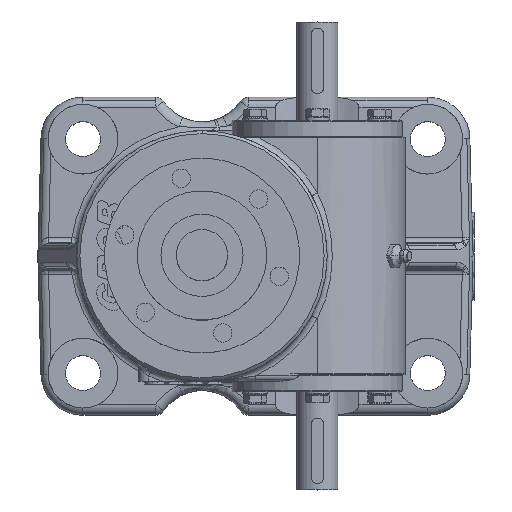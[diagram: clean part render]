
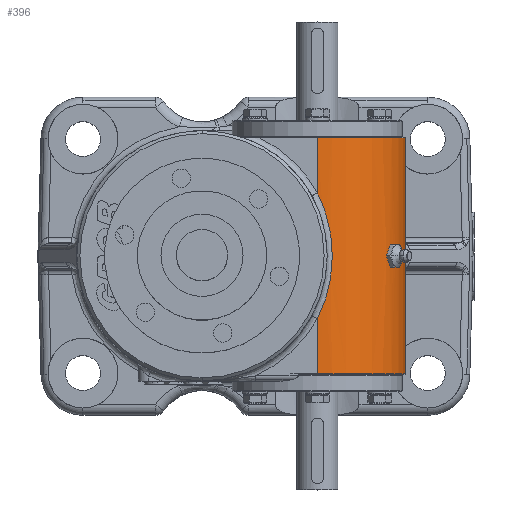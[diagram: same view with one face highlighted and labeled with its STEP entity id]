
A CAD part, top view. The second image highlights one B-rep face of the part: STEP entity #396.
In plain terms, the highlighted cylindrical face has radius 43 mm (diameter 86 mm), a partial arc.
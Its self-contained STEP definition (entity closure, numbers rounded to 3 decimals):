
#396=ADVANCED_FACE('',(#1498,#1499),#1500,.T.);
#1498=FACE_BOUND('',#3341,.T.);
#1499=FACE_OUTER_BOUND('',#3342,.T.);
#1500=CYLINDRICAL_SURFACE('',#3343,43.0);
#3341=EDGE_LOOP('',(#8148,#8149,#8150,#8151,#8152,#8153));
#3342=EDGE_LOOP('',(#8154,#8155,#8156,#8157,#8158,#8159,#8160,#8161,#8162,#8163,#8164,#8165));
#3343=AXIS2_PLACEMENT_3D('',#8166,#8167,#8168);
#8148=ORIENTED_EDGE('',*,*,#12544,.T.);
#8149=ORIENTED_EDGE('',*,*,#12540,.T.);
#8150=ORIENTED_EDGE('',*,*,#12536,.T.);
#8151=ORIENTED_EDGE('',*,*,#12559,.T.);
#8152=ORIENTED_EDGE('',*,*,#12555,.T.);
#8153=ORIENTED_EDGE('',*,*,#12558,.T.);
#8154=ORIENTED_EDGE('',*,*,#12595,.F.);
#8155=ORIENTED_EDGE('',*,*,#12596,.T.);
#8156=ORIENTED_EDGE('',*,*,#12583,.T.);
#8157=ORIENTED_EDGE('',*,*,#12597,.T.);
#8158=ORIENTED_EDGE('',*,*,#12598,.F.);
#8159=ORIENTED_EDGE('',*,*,#12599,.F.);
#8160=ORIENTED_EDGE('',*,*,#11758,.F.);
#8161=ORIENTED_EDGE('',*,*,#12600,.F.);
#8162=ORIENTED_EDGE('',*,*,#12601,.F.);
#8163=ORIENTED_EDGE('',*,*,#12602,.T.);
#8164=ORIENTED_EDGE('',*,*,#12590,.T.);
#8165=ORIENTED_EDGE('',*,*,#12603,.T.);
#8166=CARTESIAN_POINT('',(56.184,0.,61.5));
#8167=DIRECTION('',(0.,-1.0,0.));
#8168=DIRECTION('',(0.,0.,1.0));
#11758=EDGE_CURVE('',#13900,#13902,#13903,.T.);
#12536=EDGE_CURVE('',#15248,#15249,#15250,.T.);
#12540=EDGE_CURVE('',#15255,#15248,#15256,.T.);
#12544=EDGE_CURVE('',#15262,#15255,#15263,.T.);
#12555=EDGE_CURVE('',#15276,#15277,#15278,.T.);
#12558=EDGE_CURVE('',#15277,#15262,#15281,.T.);
#12559=EDGE_CURVE('',#15249,#15276,#15282,.T.);
#12583=EDGE_CURVE('',#15314,#15311,#15315,.T.);
#12590=EDGE_CURVE('',#15325,#15323,#15326,.T.);
#12595=EDGE_CURVE('',#15333,#15334,#15335,.T.);
#12596=EDGE_CURVE('',#15333,#15314,#15336,.T.);
#12597=EDGE_CURVE('',#15311,#15337,#15338,.T.);
#12598=EDGE_CURVE('',#15339,#15337,#15340,.T.);
#12599=EDGE_CURVE('',#13902,#15339,#15341,.T.);
#12600=EDGE_CURVE('',#15342,#13900,#15343,.T.);
#12601=EDGE_CURVE('',#15344,#15342,#15345,.T.);
#12602=EDGE_CURVE('',#15344,#15325,#15346,.T.);
#12603=EDGE_CURVE('',#15323,#15334,#15347,.T.);
#13900=VERTEX_POINT('',#17307);
#13902=VERTEX_POINT('',#17309);
#13903=LINE('',#17310,#17311);
#15248=VERTEX_POINT('',#19846);
#15249=VERTEX_POINT('',#19847);
#15250=ELLIPSE('',#19848,86.0,43.0);
#15255=VERTEX_POINT('',#19864);
#15256=CIRCLE('',#19865,43.0);
#15262=VERTEX_POINT('',#19890);
#15263=ELLIPSE('',#19891,86.,43.0);
#15276=VERTEX_POINT('',#19968);
#15277=VERTEX_POINT('',#19969);
#15278=CIRCLE('',#19970,43.0);
#15281=ELLIPSE('',#19975,86.,43.0);
#15282=ELLIPSE('',#19976,86.,43.0);
#15311=VERTEX_POINT('',#20008);
#15314=VERTEX_POINT('',#20011);
#15315=CIRCLE('',#20012,43.0);
#15323=VERTEX_POINT('',#20034);
#15325=VERTEX_POINT('',#20037);
#15326=CIRCLE('',#20038,43.0);
#15333=VERTEX_POINT('',#20053);
#15334=VERTEX_POINT('',#20054);
#15335=B_SPLINE_CURVE_WITH_KNOTS('',3,(#20055,#20056,#20057,#20058,#20059,#20060,#20061,#20062,#20063,#20064),.UNSPECIFIED.,.F.,.F.,(4,1,1,1,1,1,1,4),(0.0,0.909,1.818,2.727,3.636,4.546,5.,6.364),.UNSPECIFIED.);
#15336=LINE('',#20065,#20066);
#15337=VERTEX_POINT('',#20067);
#15338=LINE('',#20068,#20069);
#15339=VERTEX_POINT('',#20070);
#15340=CIRCLE('',#20071,43.0);
#15341=B_SPLINE_CURVE_WITH_KNOTS('',3,(#20072,#20073,#20074,#20075,#20076,#20077,#20078,#20079,#20080,#20081,#20082),.UNSPECIFIED.,.F.,.F.,(4,1,1,1,1,1,2,4),(-0.661,-0.529,-0.265,-0.198,-0.132,-0.066,0.0,0.001),.UNSPECIFIED.);
#15342=VERTEX_POINT('',#20083);
#15343=B_SPLINE_CURVE_WITH_KNOTS('',3,(#20084,#20085,#20086,#20087,#20088,#20089,#20090,#20091,#20092,#20093,#20094,#20095,#20096),.UNSPECIFIED.,.F.,.F.,(4,2,1,1,1,1,1,1,1,4),(-0.662,-0.661,-0.595,-0.529,-0.463,-0.397,-0.331,-0.265,-0.132,0.),.UNSPECIFIED.);
#15344=VERTEX_POINT('',#20097);
#15345=CIRCLE('',#20098,43.0);
#15346=LINE('',#20099,#20100);
#15347=LINE('',#20101,#20102);
#17307=CARTESIAN_POINT('',(97.865,3.835,50.932));
#17309=CARTESIAN_POINT('',(97.865,-3.835,50.932));
#17310=CARTESIAN_POINT('',(97.865,3.835,50.932));
#17311=VECTOR('',#22705,0.767);
#19846=CARTESIAN_POINT('',(94.909,5.5,80.191));
#19847=CARTESIAN_POINT('',(96.19,0.,77.264));
#19848=AXIS2_PLACEMENT_3D('',#24148,#24149,#24150);
#19864=CARTESIAN_POINT('',(91.734,5.5,85.691));
#19865=AXIS2_PLACEMENT_3D('',#24153,#24154,#24155);
#19890=CARTESIAN_POINT('',(89.839,0.,88.264));
#19891=AXIS2_PLACEMENT_3D('',#24157,#24158,#24159);
#19968=CARTESIAN_POINT('',(94.909,-5.5,80.191));
#19969=CARTESIAN_POINT('',(91.734,-5.5,85.691));
#19970=AXIS2_PLACEMENT_3D('',#24167,#24168,#24169);
#19975=AXIS2_PLACEMENT_3D('',#24172,#24173,#24174);
#19976=AXIS2_PLACEMENT_3D('',#24175,#24176,#24177);
#20008=CARTESIAN_POINT('',(81.864,-57.5,27.01));
#20011=CARTESIAN_POINT('',(56.184,-57.5,104.5));
#20012=AXIS2_PLACEMENT_3D('',#24241,#24242,#24243);
#20034=CARTESIAN_POINT('',(56.184,57.5,104.5));
#20037=CARTESIAN_POINT('',(81.864,57.5,27.01));
#20038=AXIS2_PLACEMENT_3D('',#24251,#24252,#24253);
#20053=CARTESIAN_POINT('',(56.184,-30.649,104.5));
#20054=CARTESIAN_POINT('',(56.184,30.649,104.5));
#20055=CARTESIAN_POINT('',(56.184,-30.649,104.5));
#20056=CARTESIAN_POINT('',(57.541,-27.989,104.5));
#20057=CARTESIAN_POINT('',(59.916,-22.432,104.372));
#20058=CARTESIAN_POINT('',(62.33,-13.603,104.071));
#20059=CARTESIAN_POINT('',(63.54,-4.595,103.866));
#20060=CARTESIAN_POINT('',(63.54,4.605,103.867));
#20061=CARTESIAN_POINT('',(62.526,12.124,104.038));
#20062=CARTESIAN_POINT('',(60.419,20.979,104.313));
#20063=CARTESIAN_POINT('',(58.219,26.658,104.5));
#20064=CARTESIAN_POINT('',(56.184,30.649,104.5));
#20065=CARTESIAN_POINT('',(56.184,-30.649,104.5));
#20066=VECTOR('',#24261,2.685);
#20067=CARTESIAN_POINT('',(81.864,-9.,27.01));
#20068=CARTESIAN_POINT('',(81.864,-57.5,27.01));
#20069=VECTOR('',#24262,4.85);
#20070=CARTESIAN_POINT('',(96.936,-9.,47.778));
#20071=AXIS2_PLACEMENT_3D('',#24263,#24264,#24265);
#20072=CARTESIAN_POINT('',(97.865,-3.835,50.932));
#20073=CARTESIAN_POINT('',(97.865,-4.276,50.932));
#20074=CARTESIAN_POINT('',(97.832,-5.61,50.8));
#20075=CARTESIAN_POINT('',(97.668,-7.048,50.167));
#20076=CARTESIAN_POINT('',(97.429,-8.014,49.336));
#20077=CARTESIAN_POINT('',(97.287,-8.435,48.864));
#20078=CARTESIAN_POINT('',(97.124,-8.776,48.347));
#20079=CARTESIAN_POINT('',(97.003,-8.937,47.977));
#20080=CARTESIAN_POINT('',(96.938,-8.998,47.784));
#20081=CARTESIAN_POINT('',(96.937,-8.999,47.781));
#20082=CARTESIAN_POINT('',(96.936,-9.,47.778));
#20083=CARTESIAN_POINT('',(96.936,9.,47.778));
#20084=CARTESIAN_POINT('',(96.936,9.,47.778));
#20085=CARTESIAN_POINT('',(96.937,8.999,47.781));
#20086=CARTESIAN_POINT('',(96.938,8.998,47.784));
#20087=CARTESIAN_POINT('',(97.003,8.937,47.977));
#20088=CARTESIAN_POINT('',(97.124,8.776,48.347));
#20089=CARTESIAN_POINT('',(97.286,8.436,48.864));
#20090=CARTESIAN_POINT('',(97.429,8.013,49.337));
#20091=CARTESIAN_POINT('',(97.548,7.532,49.75));
#20092=CARTESIAN_POINT('',(97.649,6.995,50.11));
#20093=CARTESIAN_POINT('',(97.756,6.218,50.508));
#20094=CARTESIAN_POINT('',(97.843,5.169,50.842));
#20095=CARTESIAN_POINT('',(97.865,4.276,50.932));
#20096=CARTESIAN_POINT('',(97.865,3.835,50.932));
#20097=CARTESIAN_POINT('',(81.864,9.,27.01));
#20098=AXIS2_PLACEMENT_3D('',#24266,#24267,#24268);
#20099=CARTESIAN_POINT('',(81.864,9.,27.01));
#20100=VECTOR('',#24269,4.85);
#20101=CARTESIAN_POINT('',(56.184,57.5,104.5));
#20102=VECTOR('',#24270,2.685);
#22705=DIRECTION('',(0.,-1.0,0.));
#24148=CARTESIAN_POINT('',(56.184,11.,61.5));
#24149=DIRECTION('',(0.433,0.5,-0.75));
#24150=DIRECTION('',(-0.25,0.866,0.433));
#24153=CARTESIAN_POINT('',(56.184,5.5,61.5));
#24154=DIRECTION('',(0.,1.0,0.));
#24155=DIRECTION('',(0.,0.,1.0));
#24157=CARTESIAN_POINT('',(56.184,11.,61.5));
#24158=DIRECTION('',(-0.433,0.5,0.75));
#24159=DIRECTION('',(-0.25,-0.866,0.433));
#24167=CARTESIAN_POINT('',(56.184,-5.5,61.5));
#24168=DIRECTION('',(0.,-1.0,0.));
#24169=DIRECTION('',(0.,0.,1.0));
#24172=CARTESIAN_POINT('',(56.184,-11.,61.5));
#24173=DIRECTION('',(-0.433,-0.5,0.75));
#24174=DIRECTION('',(-0.25,0.866,0.433));
#24175=CARTESIAN_POINT('',(56.184,-11.,61.5));
#24176=DIRECTION('',(0.433,-0.5,-0.75));
#24177=DIRECTION('',(-0.25,-0.866,0.433));
#24241=CARTESIAN_POINT('',(56.184,-57.5,61.5));
#24242=DIRECTION('',(0.,1.0,0.));
#24243=DIRECTION('',(0.,0.,1.0));
#24251=CARTESIAN_POINT('',(56.184,57.5,61.5));
#24252=DIRECTION('',(0.,-1.0,0.));
#24253=DIRECTION('',(0.,0.,1.0));
#24261=DIRECTION('',(0.,-1.0,0.));
#24262=DIRECTION('',(0.,1.0,0.));
#24263=CARTESIAN_POINT('',(56.184,-9.,61.5));
#24264=DIRECTION('',(0.,1.0,0.));
#24265=DIRECTION('',(0.822,0.,-0.57));
#24266=CARTESIAN_POINT('',(56.184,9.,61.5));
#24267=DIRECTION('',(0.,-1.0,0.));
#24268=DIRECTION('',(0.822,0.,-0.57));
#24269=DIRECTION('',(0.,1.0,0.));
#24270=DIRECTION('',(0.,-1.0,0.));
